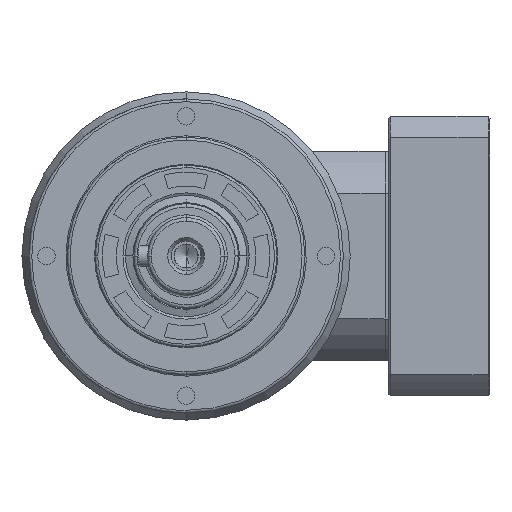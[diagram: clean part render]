
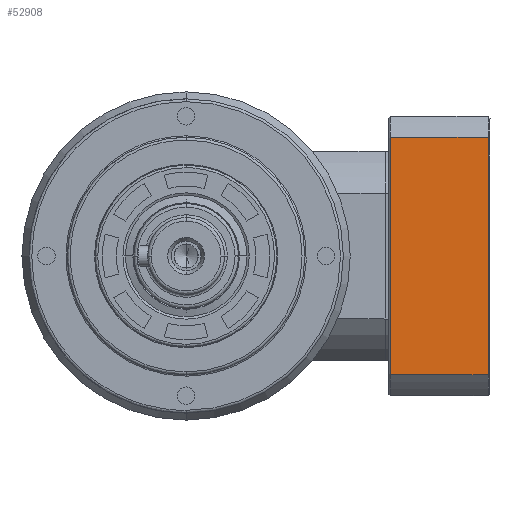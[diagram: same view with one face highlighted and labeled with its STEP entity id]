
A CAD part, left-side view. The second image highlights one B-rep face of the part: STEP entity #52908.
In plain terms, the highlighted planar face has unit normal (-1, 0, 0.001).
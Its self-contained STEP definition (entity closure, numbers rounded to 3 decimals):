
#130 = LINE ( 'NONE', #69530, #42443 ) ;
#1175 = FACE_OUTER_BOUND ( 'NONE', #54600, .T. ) ;
#7676 = CARTESIAN_POINT ( 'NONE',  ( 40.479, -97.754, 83.987 ) ) ;
#10428 = AXIS2_PLACEMENT_3D ( 'NONE', #24692, #35502, #48206 ) ;
#11862 = DIRECTION ( 'NONE',  ( 0., 1., 0.001 ) ) ;
#20562 = ORIENTED_EDGE ( 'NONE', *, *, #39016, .T. ) ;
#23269 = VECTOR ( 'NONE', #65818, 1000. ) ;
#24692 = CARTESIAN_POINT ( 'NONE',  ( 40.513, -125.956, 152.403 ) ) ;
#25781 = LINE ( 'NONE', #7676, #61707 ) ;
#27725 = CARTESIAN_POINT ( 'NONE',  ( 40.479, -97.754, 83.987 ) ) ;
#30265 = ORIENTED_EDGE ( 'NONE', *, *, #55449, .T. ) ;
#32351 = CARTESIAN_POINT ( 'NONE',  ( 40.513, -97.788, 151.994 ) ) ;
#33698 = ORIENTED_EDGE ( 'NONE', *, *, #37812, .T. ) ;
#35502 = DIRECTION ( 'NONE',  ( -1., 0., 0.001 ) ) ;
#35750 = CARTESIAN_POINT ( 'NONE',  ( 40.513, -97.788, 151.994 ) ) ;
#36523 = VERTEX_POINT ( 'NONE', #27725 ) ;
#37812 = EDGE_CURVE ( 'NONE', #68262, #66336, #63518, .T. ) ;
#39016 = EDGE_CURVE ( 'NONE', #66336, #36523, #53114, .T. ) ;
#40865 = PLANE ( 'NONE',  #10428 ) ;
#42443 = VECTOR ( 'NONE', #63745, 1000. ) ;
#48206 = DIRECTION ( 'NONE',  ( 0., 1., 0. ) ) ;
#50292 = VERTEX_POINT ( 'NONE', #71952 ) ;
#52908 = ADVANCED_FACE ( 'NONE', ( #1175 ), #40865, .T. ) ;
#53114 = LINE ( 'NONE', #35750, #23269 ) ;
#54577 = ORIENTED_EDGE ( 'NONE', *, *, #59533, .T. ) ;
#54600 = EDGE_LOOP ( 'NONE', ( #30265, #33698, #20562, #54577 ) ) ;
#55449 = EDGE_CURVE ( 'NONE', #50292, #68262, #130, .T. ) ;
#59533 = EDGE_CURVE ( 'NONE', #36523, #50292, #25781, .T. ) ;
#59664 = CARTESIAN_POINT ( 'NONE',  ( 40.513, -111.788, 151.987 ) ) ;
#61707 = VECTOR ( 'NONE', #73216, 1000. ) ;
#63518 = LINE ( 'NONE', #59664, #67592 ) ;
#63745 = DIRECTION ( 'NONE',  ( 0.001, -0.001, 1. ) ) ;
#65818 = DIRECTION ( 'NONE',  ( -0.001, 0.001, -1. ) ) ;
#66336 = VERTEX_POINT ( 'NONE', #32351 ) ;
#67592 = VECTOR ( 'NONE', #11862, 1000. ) ;
#68262 = VERTEX_POINT ( 'NONE', #75718 ) ;
#69530 = CARTESIAN_POINT ( 'NONE',  ( 40.479, -125.754, 83.973 ) ) ;
#71952 = CARTESIAN_POINT ( 'NONE',  ( 40.479, -125.754, 83.973 ) ) ;
#73216 = DIRECTION ( 'NONE',  ( 0., -1., -0.001 ) ) ;
#75718 = CARTESIAN_POINT ( 'NONE',  ( 40.513, -125.788, 151.98 ) ) ;
